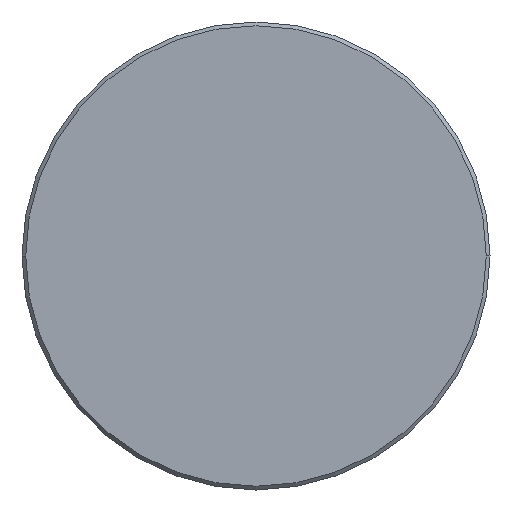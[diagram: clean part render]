
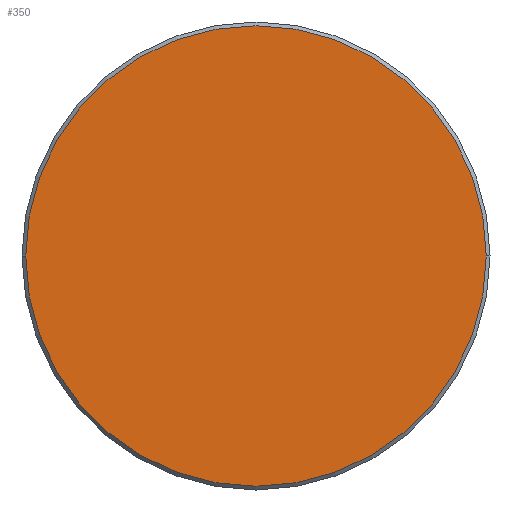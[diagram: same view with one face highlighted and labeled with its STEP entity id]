
A CAD part, left-side view. The second image highlights one B-rep face of the part: STEP entity #350.
In plain terms, the highlighted planar face has unit normal (-1, 0, 0).
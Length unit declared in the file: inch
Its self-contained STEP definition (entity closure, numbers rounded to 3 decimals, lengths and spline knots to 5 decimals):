
#17 = CARTESIAN_POINT ( 'NONE',  ( 0., 0., 0. ) ) ;
#39 = CIRCLE ( 'NONE', #150, 0.246 ) ;
#52 = DIRECTION ( 'NONE',  ( 0., -1., 0. ) ) ;
#56 = CARTESIAN_POINT ( 'NONE',  ( 0., 0.246, 0. ) ) ;
#66 = DIRECTION ( 'NONE',  ( -1., 0., 0. ) ) ;
#70 = EDGE_CURVE ( 'NONE', #207, #109, #39, .T. ) ;
#83 = DIRECTION ( 'NONE',  ( -1., 0., 0. ) ) ;
#104 = ORIENTED_EDGE ( 'NONE', *, *, #126, .T. ) ;
#109 = VERTEX_POINT ( 'NONE', #56 ) ;
#126 = EDGE_CURVE ( 'NONE', #109, #207, #242, .T. ) ;
#136 = AXIS2_PLACEMENT_3D ( 'NONE', #278, #66, #305 ) ;
#146 = DIRECTION ( 'NONE',  ( 0., -1., 0. ) ) ;
#150 = AXIS2_PLACEMENT_3D ( 'NONE', #17, #233, #52 ) ;
#184 = AXIS2_PLACEMENT_3D ( 'NONE', #357, #83, #146 ) ;
#201 = FACE_OUTER_BOUND ( 'NONE', #338, .T. ) ;
#207 = VERTEX_POINT ( 'NONE', #351 ) ;
#233 = DIRECTION ( 'NONE',  ( -1., 0., 0. ) ) ;
#242 = CIRCLE ( 'NONE', #184, 0.246 ) ;
#251 = ORIENTED_EDGE ( 'NONE', *, *, #70, .T. ) ;
#271 = PLANE ( 'NONE',  #136 ) ;
#278 = CARTESIAN_POINT ( 'NONE',  ( 0., 0., 0. ) ) ;
#305 = DIRECTION ( 'NONE',  ( 0., -1., 0. ) ) ;
#338 = EDGE_LOOP ( 'NONE', ( #104, #251 ) ) ;
#350 = ADVANCED_FACE ( 'NONE', ( #201 ), #271, .T. ) ;
#351 = CARTESIAN_POINT ( 'NONE',  ( 0., -0.246, 0. ) ) ;
#357 = CARTESIAN_POINT ( 'NONE',  ( 0., 0., 0. ) ) ;
